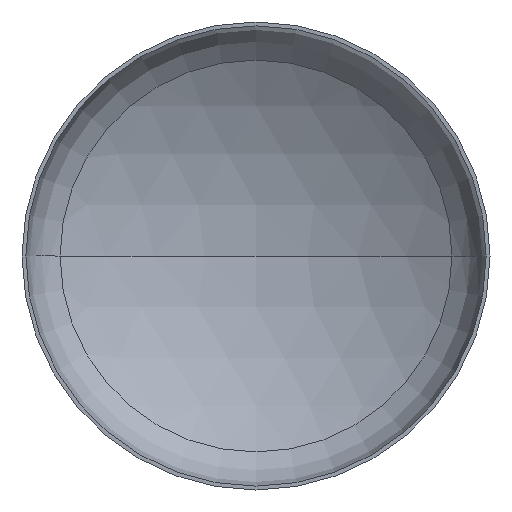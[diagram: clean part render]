
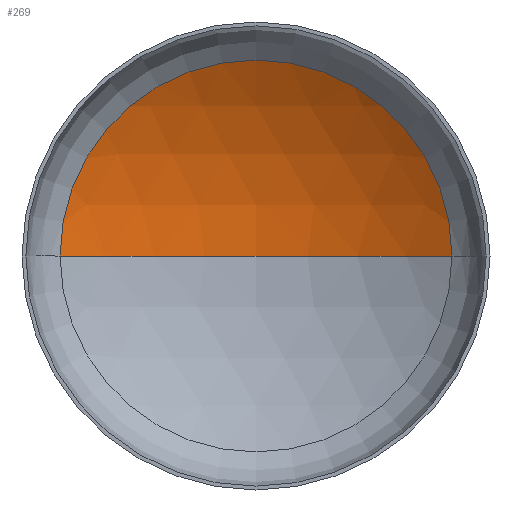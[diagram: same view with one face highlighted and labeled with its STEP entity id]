
A CAD part, front view. The second image highlights one B-rep face of the part: STEP entity #269.
In plain terms, the highlighted spherical face has radius 2240 mm.
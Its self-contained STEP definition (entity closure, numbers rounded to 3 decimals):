
#1 = ORIENTED_EDGE ( 'NONE', *, *, #207, .F. ) ;
#5 = DIRECTION ( 'NONE',  ( 0., -1., 0. ) ) ;
#8 = DIRECTION ( 'NONE',  ( 0., 0., -1. ) ) ;
#10 = EDGE_LOOP ( 'NONE', ( #1, #86, #45 ) ) ;
#14 = CARTESIAN_POINT ( 'NONE',  ( 0., -1472.495, 0. ) ) ;
#34 = VERTEX_POINT ( 'NONE', #282 ) ;
#45 = ORIENTED_EDGE ( 'NONE', *, *, #200, .T. ) ;
#65 = AXIS2_PLACEMENT_3D ( 'NONE', #394, #109, #110 ) ;
#76 = VERTEX_POINT ( 'NONE', #240 ) ;
#86 = ORIENTED_EDGE ( 'NONE', *, *, #205, .T. ) ;
#106 = DIRECTION ( 'NONE',  ( 1., 0., 0. ) ) ;
#109 = DIRECTION ( 'NONE',  ( 0., 0., -1. ) ) ;
#110 = DIRECTION ( 'NONE',  ( -1., 0., 0. ) ) ;
#126 = AXIS2_PLACEMENT_3D ( 'NONE', #262, #279, #106 ) ;
#127 = AXIS2_PLACEMENT_3D ( 'NONE', #14, #8, #302 ) ;
#131 = AXIS2_PLACEMENT_3D ( 'NONE', #210, #5, #276 ) ;
#135 = CARTESIAN_POINT ( 'NONE',  ( 1171.978, 436.449, 0. ) ) ;
#144 = CIRCLE ( 'NONE', #131, 1171.978 ) ;
#200 = EDGE_CURVE ( 'NONE', #314, #34, #144, .T. ) ;
#201 = SPHERICAL_SURFACE ( 'NONE', #65, 2240. ) ;
#205 = EDGE_CURVE ( 'NONE', #76, #314, #401, .T. ) ;
#207 = EDGE_CURVE ( 'NONE', #76, #34, #283, .T. ) ;
#210 = CARTESIAN_POINT ( 'NONE',  ( 0., 436.449, 0. ) ) ;
#240 = CARTESIAN_POINT ( 'NONE',  ( 0., 767.505, 0. ) ) ;
#262 = CARTESIAN_POINT ( 'NONE',  ( 0., -1472.495, 0. ) ) ;
#269 = ADVANCED_FACE ( 'NONE', ( #321 ), #201, .F. ) ;
#276 = DIRECTION ( 'NONE',  ( 1., 0., 0. ) ) ;
#279 = DIRECTION ( 'NONE',  ( 0., 0., 1. ) ) ;
#282 = CARTESIAN_POINT ( 'NONE',  ( -1171.978, 436.449, 0. ) ) ;
#283 = CIRCLE ( 'NONE', #126, 2240. ) ;
#302 = DIRECTION ( 'NONE',  ( -1., 0., 0. ) ) ;
#314 = VERTEX_POINT ( 'NONE', #135 ) ;
#321 = FACE_OUTER_BOUND ( 'NONE', #10, .T. ) ;
#394 = CARTESIAN_POINT ( 'NONE',  ( 0., -1472.495, 0. ) ) ;
#401 = CIRCLE ( 'NONE', #127, 2240. ) ;
